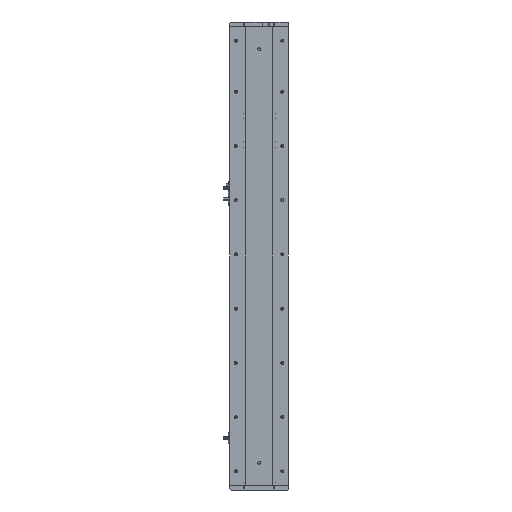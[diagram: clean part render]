
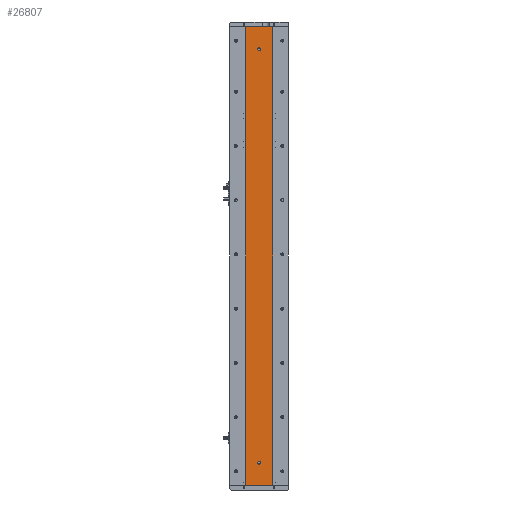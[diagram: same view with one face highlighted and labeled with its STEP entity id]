
A CAD part, left-side view. The second image highlights one B-rep face of the part: STEP entity #26807.
In plain terms, the highlighted planar face has unit normal (-1, 0, 0).
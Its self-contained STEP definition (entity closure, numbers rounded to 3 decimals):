
#203 = ORIENTED_EDGE ( 'NONE', *, *, #20123, .T. ) ;
#825 = DIRECTION ( 'NONE',  ( -1., 0., 0. ) ) ;
#1241 = EDGE_LOOP ( 'NONE', ( #203, #3850, #24998, #17161 ) ) ;
#1735 = EDGE_CURVE ( 'NONE', #21093, #8649, #20389, .T. ) ;
#3433 = VERTEX_POINT ( 'NONE', #17112 ) ;
#3850 = ORIENTED_EDGE ( 'NONE', *, *, #25723, .F. ) ;
#4428 = DIRECTION ( 'NONE',  ( 0., 0., -1. ) ) ;
#4453 = CARTESIAN_POINT ( 'NONE',  ( -24.994, -29.785, 0. ) ) ;
#5779 = AXIS2_PLACEMENT_3D ( 'NONE', #17558, #825, #20390 ) ;
#5861 = CARTESIAN_POINT ( 'NONE',  ( -24.994, 29.785, 0. ) ) ;
#6051 = AXIS2_PLACEMENT_3D ( 'NONE', #24203, #7385, #27050 ) ;
#6255 = DIRECTION ( 'NONE',  ( -1., 0., 0. ) ) ;
#6682 = LINE ( 'NONE', #10730, #21584 ) ;
#7385 = DIRECTION ( 'NONE',  ( -1., 0., 0. ) ) ;
#7792 = DIRECTION ( 'NONE',  ( 0., -1., 0. ) ) ;
#7807 = ORIENTED_EDGE ( 'NONE', *, *, #16754, .F. ) ;
#8464 = CARTESIAN_POINT ( 'NONE',  ( -24.994, 29.785, 1015. ) ) ;
#8649 = VERTEX_POINT ( 'NONE', #11384 ) ;
#8809 = AXIS2_PLACEMENT_3D ( 'NONE', #8464, #28089, #11277 ) ;
#9236 = VECTOR ( 'NONE', #4428, 1000. ) ;
#9642 = ORIENTED_EDGE ( 'NONE', *, *, #33710, .F. ) ;
#9869 = VECTOR ( 'NONE', #25494, 1000. ) ;
#10346 = CIRCLE ( 'NONE', #5779, 3. ) ;
#10730 = CARTESIAN_POINT ( 'NONE',  ( -24.994, 29.785, 0. ) ) ;
#10850 = EDGE_LOOP ( 'NONE', ( #16793, #9642 ) ) ;
#11166 = PLANE ( 'NONE',  #8809 ) ;
#11255 = DIRECTION ( 'NONE',  ( -1., 0., 0. ) ) ;
#11277 = DIRECTION ( 'NONE',  ( 0., 0., -1. ) ) ;
#11384 = CARTESIAN_POINT ( 'NONE',  ( -24.994, 0., 47. ) ) ;
#12237 = EDGE_CURVE ( 'NONE', #34084, #3433, #31475, .T. ) ;
#12471 = VERTEX_POINT ( 'NONE', #26856 ) ;
#14452 = FACE_BOUND ( 'NONE', #10850, .T. ) ;
#14611 = CARTESIAN_POINT ( 'NONE',  ( -24.994, 0., 968. ) ) ;
#15298 = CIRCLE ( 'NONE', #6051, 3. ) ;
#16754 = EDGE_CURVE ( 'NONE', #8649, #21093, #10346, .T. ) ;
#16793 = ORIENTED_EDGE ( 'NONE', *, *, #12237, .F. ) ;
#17112 = CARTESIAN_POINT ( 'NONE',  ( -24.994, 0., 962. ) ) ;
#17161 = ORIENTED_EDGE ( 'NONE', *, *, #26564, .T. ) ;
#17558 = CARTESIAN_POINT ( 'NONE',  ( -24.994, 0., 50. ) ) ;
#18393 = LINE ( 'NONE', #21229, #9236 ) ;
#19515 = AXIS2_PLACEMENT_3D ( 'NONE', #28069, #11255, #30884 ) ;
#20123 = EDGE_CURVE ( 'NONE', #32989, #23570, #6682, .T. ) ;
#20307 = EDGE_LOOP ( 'NONE', ( #21332, #7807 ) ) ;
#20389 = CIRCLE ( 'NONE', #19515, 3. ) ;
#20390 = DIRECTION ( 'NONE',  ( 0., 0., 1. ) ) ;
#21065 = EDGE_CURVE ( 'NONE', #31117, #12471, #21254, .T. ) ;
#21093 = VERTEX_POINT ( 'NONE', #34039 ) ;
#21123 = LINE ( 'NONE', #31462, #28618 ) ;
#21229 = CARTESIAN_POINT ( 'NONE',  ( -24.994, 29.785, 1015. ) ) ;
#21254 = LINE ( 'NONE', #22822, #9869 ) ;
#21332 = ORIENTED_EDGE ( 'NONE', *, *, #1735, .F. ) ;
#21584 = VECTOR ( 'NONE', #7792, 1000. ) ;
#21910 = FACE_OUTER_BOUND ( 'NONE', #1241, .T. ) ;
#22822 = CARTESIAN_POINT ( 'NONE',  ( -24.994, 29.785, 1015. ) ) ;
#23062 = CARTESIAN_POINT ( 'NONE',  ( -24.994, 0., 965. ) ) ;
#23570 = VERTEX_POINT ( 'NONE', #4453 ) ;
#24203 = CARTESIAN_POINT ( 'NONE',  ( -24.994, 0., 965. ) ) ;
#24998 = ORIENTED_EDGE ( 'NONE', *, *, #21065, .F. ) ;
#25494 = DIRECTION ( 'NONE',  ( 0., -1., 0. ) ) ;
#25723 = EDGE_CURVE ( 'NONE', #12471, #23570, #21123, .T. ) ;
#25872 = DIRECTION ( 'NONE',  ( 0., 0., 1. ) ) ;
#26564 = EDGE_CURVE ( 'NONE', #31117, #32989, #18393, .T. ) ;
#26807 = ADVANCED_FACE ( 'NONE', ( #14452, #29414, #21910 ), #11166, .F. ) ;
#26856 = CARTESIAN_POINT ( 'NONE',  ( -24.994, -29.785, 1015. ) ) ;
#27050 = DIRECTION ( 'NONE',  ( 0., 0., 1. ) ) ;
#27465 = CARTESIAN_POINT ( 'NONE',  ( -24.994, 29.785, 1015. ) ) ;
#28069 = CARTESIAN_POINT ( 'NONE',  ( -24.994, 0., 50. ) ) ;
#28089 = DIRECTION ( 'NONE',  ( 1., 0., 0. ) ) ;
#28384 = AXIS2_PLACEMENT_3D ( 'NONE', #23062, #6255, #25872 ) ;
#28618 = VECTOR ( 'NONE', #34245, 1000. ) ;
#29414 = FACE_BOUND ( 'NONE', #20307, .T. ) ;
#30884 = DIRECTION ( 'NONE',  ( 0., 0., 1. ) ) ;
#31117 = VERTEX_POINT ( 'NONE', #27465 ) ;
#31462 = CARTESIAN_POINT ( 'NONE',  ( -24.994, -29.785, 1015. ) ) ;
#31475 = CIRCLE ( 'NONE', #28384, 3. ) ;
#32989 = VERTEX_POINT ( 'NONE', #5861 ) ;
#33710 = EDGE_CURVE ( 'NONE', #3433, #34084, #15298, .T. ) ;
#34039 = CARTESIAN_POINT ( 'NONE',  ( -24.994, 0., 53. ) ) ;
#34084 = VERTEX_POINT ( 'NONE', #14611 ) ;
#34245 = DIRECTION ( 'NONE',  ( 0., 0., -1. ) ) ;
